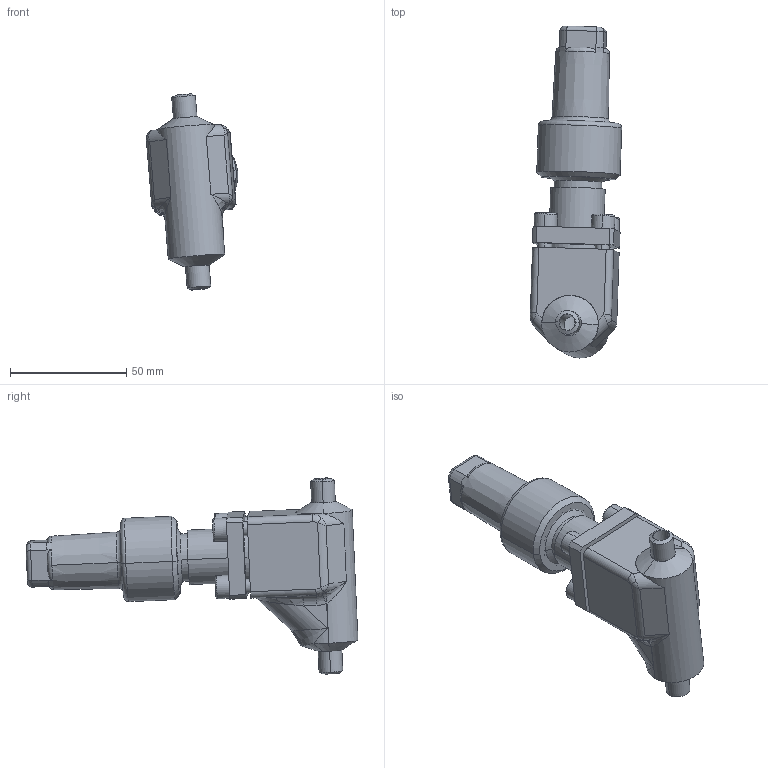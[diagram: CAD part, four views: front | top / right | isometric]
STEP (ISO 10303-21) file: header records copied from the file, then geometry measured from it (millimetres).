
FILE_DESCRIPTION (( 'STEP AP214' ), '1' );
FILE_NAME ('AVR96300-DN006_R1_PS40.STEP', '2006-05-02T07:44:26', ( 'Herr Grams' ), ( 'AWP GmbH' ), 'SwSTEP 2.0', 'SolidWorks 2002296', '' );
FILE_SCHEMA (( 'AUTOMOTIVE_DESIGN' ));
Length unit declared in the file: millimetre
Products named in the file (6): AVR96300-DN006_R1_PS40; Kappe96300E10_DN6-20_Standard; Gehäuse96300E06-DN06_PS40_R1_Standard; AVR96300E10_Deck+Schr-DN6-15_Standard; Deckel96300E10-DN6-15_PS40_Standard; Zylinderschraube-DIN912_M 6x 18
Assembly tree (8 placements, depth 3):
  AVR96300-DN006_R1_PS40
    Kappe96300E10_DN6-20_Standard
    AVR96300E10_Deck+Schr-DN6-15_Standard
      Deckel96300E10-DN6-15_PS40_Standard
      Zylinderschraube-DIN912_M 6x 18  x4
    Gehäuse96300E06-DN06_PS40_R1_Standard
Bounding box: 39.31 x 142.7 x 84.3 mm (x, y, z)
Volume: 107110.1 mm3; surface area: 34356.2 mm2
Topology: 7 solids, 7 shells, 250 faces, 573 edges, 351 vertices
Faces by surface type: cylinder 91, plane 86, cone 29, torus 23, bspline 21
Entity records: 15574 total; most frequent: CARTESIAN_POINT 10539, DIRECTION 912, ORIENTED_EDGE 906, EDGE_CURVE 453, AXIS2_PLACEMENT_3D 374, VERTEX_POINT 279, EDGE_LOOP 222, FACE_OUTER_BOUND 196
